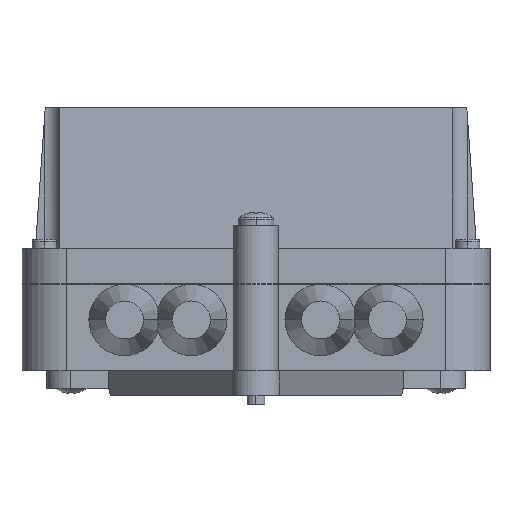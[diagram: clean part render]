
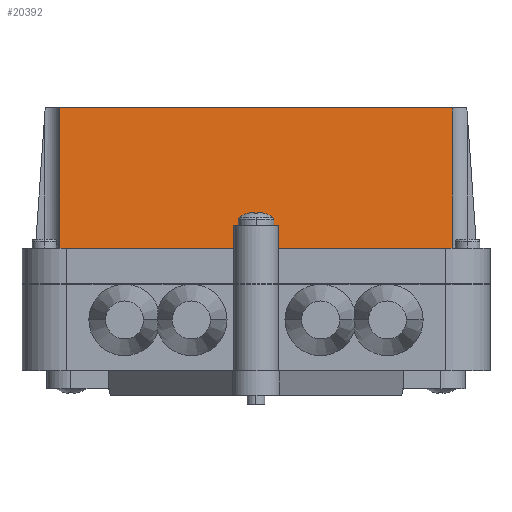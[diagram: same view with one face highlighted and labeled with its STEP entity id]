
A CAD part, front view. The second image highlights one B-rep face of the part: STEP entity #20392.
In plain terms, the highlighted planar face has unit normal (0, -0.998, 0.07) as drawn and (0, 0.07, 0.998) by its records, which use the part's own axes.
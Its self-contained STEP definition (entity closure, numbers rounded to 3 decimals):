
#110 = VECTOR ( 'NONE', #23870, 1000. ) ;
#779 = CARTESIAN_POINT ( 'NONE',  ( 44., 27.5, 54.5 ) ) ;
#1027 = EDGE_CURVE ( 'NONE', #30296, #21526, #34978, .T. ) ;
#1710 = ORIENTED_EDGE ( 'NONE', *, *, #10640, .T. ) ;
#1795 = CARTESIAN_POINT ( 'NONE',  ( -44., 27.5, 54.5 ) ) ;
#2523 = VECTOR ( 'NONE', #33429, 1000. ) ;
#3609 = VERTEX_POINT ( 'NONE', #11217 ) ;
#4339 = VECTOR ( 'NONE', #19809, 1000. ) ;
#5180 = LINE ( 'NONE', #779, #36041 ) ;
#6956 = CARTESIAN_POINT ( 'NONE',  ( -44., 27.5, 54.5 ) ) ;
#7769 = VECTOR ( 'NONE', #40186, 1000. ) ;
#9435 = CARTESIAN_POINT ( 'NONE',  ( 44.006, 59., 52.297 ) ) ;
#10457 = ORIENTED_EDGE ( 'NONE', *, *, #13039, .T. ) ;
#10492 = CARTESIAN_POINT ( 'NONE',  ( -5., 32.5, 54.15 ) ) ;
#10640 = EDGE_CURVE ( 'NONE', #3609, #11200, #21710, .T. ) ;
#10903 = EDGE_CURVE ( 'NONE', #11200, #19936, #23687, .T. ) ;
#11200 = VERTEX_POINT ( 'NONE', #12413 ) ;
#11217 = CARTESIAN_POINT ( 'NONE',  ( -44.006, 59., 52.297 ) ) ;
#11312 = EDGE_CURVE ( 'NONE', #17181, #30296, #5180, .T. ) ;
#11926 = DIRECTION ( 'NONE',  ( 1., 0., 0. ) ) ;
#12263 = VERTEX_POINT ( 'NONE', #10492 ) ;
#12349 = CARTESIAN_POINT ( 'NONE',  ( -44., 56.101, 52.5 ) ) ;
#12413 = CARTESIAN_POINT ( 'NONE',  ( -44., 56.101, 52.5 ) ) ;
#12617 = LINE ( 'NONE', #37826, #2523 ) ;
#12960 = ORIENTED_EDGE ( 'NONE', *, *, #14905, .T. ) ;
#13039 = EDGE_CURVE ( 'NONE', #13937, #17181, #20676, .T. ) ;
#13521 = CARTESIAN_POINT ( 'NONE',  ( 44., 27.5, 54.5 ) ) ;
#13816 = CARTESIAN_POINT ( 'NONE',  ( 44.002, 58.035, 52.365 ) ) ;
#13845 = ORIENTED_EDGE ( 'NONE', *, *, #14861, .F. ) ;
#13937 = VERTEX_POINT ( 'NONE', #30645 ) ;
#14079 = AXIS2_PLACEMENT_3D ( 'NONE', #24835, #20520, #16154 ) ;
#14419 = CARTESIAN_POINT ( 'NONE',  ( 5., 32.5, 54.15 ) ) ;
#14459 = EDGE_CURVE ( 'NONE', #3609, #21526, #40146, .T. ) ;
#14861 = EDGE_CURVE ( 'NONE', #12263, #21300, #30528, .T. ) ;
#14905 = EDGE_CURVE ( 'NONE', #19936, #21300, #12617, .T. ) ;
#15755 = CARTESIAN_POINT ( 'NONE',  ( 44., 56.101, 52.5 ) ) ;
#16154 = DIRECTION ( 'NONE',  ( 0., -0.998, 0.07 ) ) ;
#16311 = CARTESIAN_POINT ( 'NONE',  ( -49.5, 27.5, 54.5 ) ) ;
#16735 = CARTESIAN_POINT ( 'NONE',  ( -44., 57.068, 52.432 ) ) ;
#17181 = VERTEX_POINT ( 'NONE', #13521 ) ;
#17980 = ORIENTED_EDGE ( 'NONE', *, *, #11312, .T. ) ;
#18178 = CARTESIAN_POINT ( 'NONE',  ( 44., 57.068, 52.432 ) ) ;
#19809 = DIRECTION ( 'NONE',  ( 0., 0.998, -0.07 ) ) ;
#19936 = VERTEX_POINT ( 'NONE', #6956 ) ;
#20392 = ADVANCED_FACE ( 'NONE', ( #42450 ), #29206, .T. ) ;
#20520 = DIRECTION ( 'NONE',  ( 0., 0.07, 0.998 ) ) ;
#20676 = LINE ( 'NONE', #16311, #36403 ) ;
#21088 = CARTESIAN_POINT ( 'NONE',  ( -44.002, 58.035, 52.365 ) ) ;
#21300 = VERTEX_POINT ( 'NONE', #32784 ) ;
#21526 = VERTEX_POINT ( 'NONE', #42309 ) ;
#21710 =( BOUNDED_CURVE ( )  B_SPLINE_CURVE ( 3, ( #25431, #21088, #16735, #12349 ),
 .UNSPECIFIED., .F., .T. ) 
 B_SPLINE_CURVE_WITH_KNOTS ( ( 4, 4 ),
 ( 1.513, 1.571 ),
 .UNSPECIFIED. ) 
 CURVE ( )  GEOMETRIC_REPRESENTATION_ITEM ( )  RATIONAL_B_SPLINE_CURVE ( ( 1., 1., 1., 1. ) ) 
 REPRESENTATION_ITEM ( '' )  );
#21792 = DIRECTION ( 'NONE',  ( 0., -0.998, 0.07 ) ) ;
#22527 = CARTESIAN_POINT ( 'NONE',  ( 44., 56.101, 52.5 ) ) ;
#23687 = LINE ( 'NONE', #1795, #7769 ) ;
#23870 = DIRECTION ( 'NONE',  ( 1., 0., 0. ) ) ;
#24086 = ORIENTED_EDGE ( 'NONE', *, *, #33102, .F. ) ;
#24136 = CARTESIAN_POINT ( 'NONE',  ( 5., 27.5, 54.5 ) ) ;
#24835 = CARTESIAN_POINT ( 'NONE',  ( -49.5, 27.5, 54.5 ) ) ;
#25431 = CARTESIAN_POINT ( 'NONE',  ( -44.006, 59., 52.297 ) ) ;
#26149 = CARTESIAN_POINT ( 'NONE',  ( -5., 27.5, 54.5 ) ) ;
#26186 = EDGE_LOOP ( 'NONE', ( #17980, #28353, #29414, #1710, #40475, #12960, #13845, #36921, #24086, #10457 ) ) ;
#28238 = CARTESIAN_POINT ( 'NONE',  ( -49.5, 32.5, 54.15 ) ) ;
#28353 = ORIENTED_EDGE ( 'NONE', *, *, #1027, .T. ) ;
#28502 = LINE ( 'NONE', #24136, #4339 ) ;
#28872 = EDGE_CURVE ( 'NONE', #12263, #33135, #32627, .T. ) ;
#29206 = PLANE ( 'NONE',  #14079 ) ;
#29414 = ORIENTED_EDGE ( 'NONE', *, *, #14459, .F. ) ;
#30296 = VERTEX_POINT ( 'NONE', #15755 ) ;
#30528 = LINE ( 'NONE', #26149, #37523 ) ;
#30645 = CARTESIAN_POINT ( 'NONE',  ( 5., 27.5, 54.5 ) ) ;
#31358 = DIRECTION ( 'NONE',  ( 1., 0., 0. ) ) ;
#32627 = LINE ( 'NONE', #28238, #110 ) ;
#32784 = CARTESIAN_POINT ( 'NONE',  ( -5., 27.5, 54.5 ) ) ;
#33102 = EDGE_CURVE ( 'NONE', #13937, #33135, #28502, .T. ) ;
#33135 = VERTEX_POINT ( 'NONE', #14419 ) ;
#33429 = DIRECTION ( 'NONE',  ( 1., 0., 0. ) ) ;
#34978 =( BOUNDED_CURVE ( )  B_SPLINE_CURVE ( 3, ( #22527, #18178, #13816, #9435 ),
 .UNSPECIFIED., .F., .F. ) 
 B_SPLINE_CURVE_WITH_KNOTS ( ( 4, 4 ),
 ( 4.712, 4.77 ),
 .UNSPECIFIED. ) 
 CURVE ( )  GEOMETRIC_REPRESENTATION_ITEM ( )  RATIONAL_B_SPLINE_CURVE ( ( 1., 1., 1., 1. ) ) 
 REPRESENTATION_ITEM ( '' )  );
#35731 = CARTESIAN_POINT ( 'NONE',  ( 49.5, 59., 52.297 ) ) ;
#36041 = VECTOR ( 'NONE', #39161, 1000. ) ;
#36403 = VECTOR ( 'NONE', #11926, 1000. ) ;
#36921 = ORIENTED_EDGE ( 'NONE', *, *, #28872, .T. ) ;
#36944 = VECTOR ( 'NONE', #31358, 1000. ) ;
#37523 = VECTOR ( 'NONE', #21792, 1000. ) ;
#37826 = CARTESIAN_POINT ( 'NONE',  ( -49.5, 27.5, 54.5 ) ) ;
#39161 = DIRECTION ( 'NONE',  ( 0., 0.998, -0.07 ) ) ;
#40146 = LINE ( 'NONE', #35731, #36944 ) ;
#40186 = DIRECTION ( 'NONE',  ( 0., -0.998, 0.07 ) ) ;
#40475 = ORIENTED_EDGE ( 'NONE', *, *, #10903, .T. ) ;
#42309 = CARTESIAN_POINT ( 'NONE',  ( 44.006, 59., 52.297 ) ) ;
#42450 = FACE_OUTER_BOUND ( 'NONE', #26186, .T. ) ;
